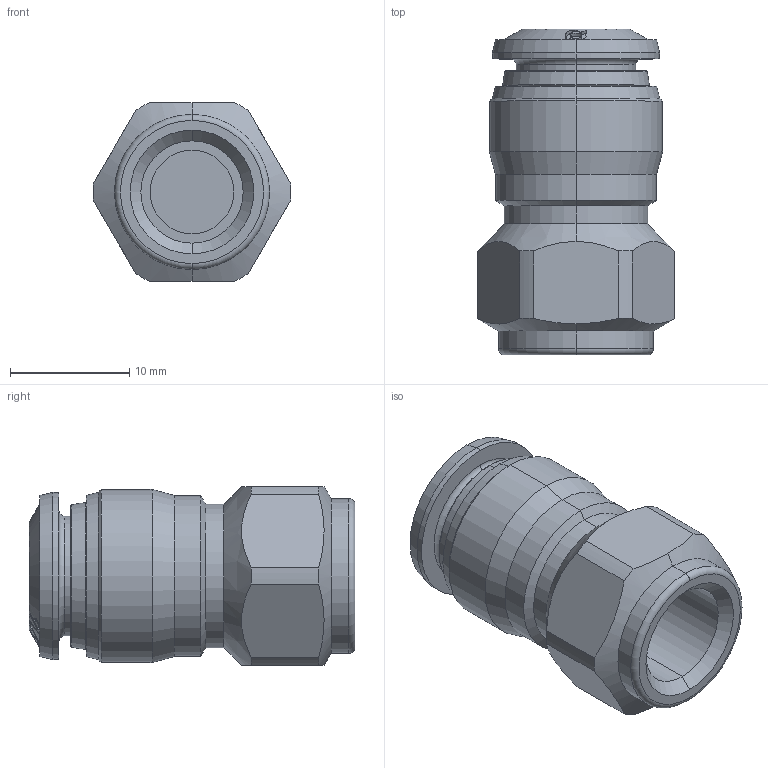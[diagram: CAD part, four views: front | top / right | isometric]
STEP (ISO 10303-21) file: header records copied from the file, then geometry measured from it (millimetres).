
FILE_DESCRIPTION (( 'STEP AP214' ), '1' );
FILE_NAME ('5003000004.step', '2012-10-01T16:41:53', ( '' ), ( '' ), 'SwSTEP 2.0', 'SolidWorks 2012', '' );
FILE_SCHEMA (( 'AUTOMOTIVE_DESIGN' ));
Length unit declared in the file: millimetre
Products named in the file (1): 5003000004
Bounding box: 16.59 x 27.3 x 15 mm (x, y, z)
Volume: 3186.9 mm3; surface area: 2362.8 mm2
Topology: 1 solids, 2 shells, 220 faces, 548 edges, 352 vertices
Faces by surface type: bspline 111, cone 49, cylinder 34, plane 18, torus 8
Entity records: 14704 total; most frequent: CARTESIAN_POINT 7980, ORIENTED_EDGE 1096, EDGE_CURVE 548, DIRECTION 505, B_SPLINE_CURVE_WITH_KNOTS 367, VERTEX_POINT 352, EDGE_LOOP 242, UNCERTAINTY_MEASURE_WITH_UNIT 223
